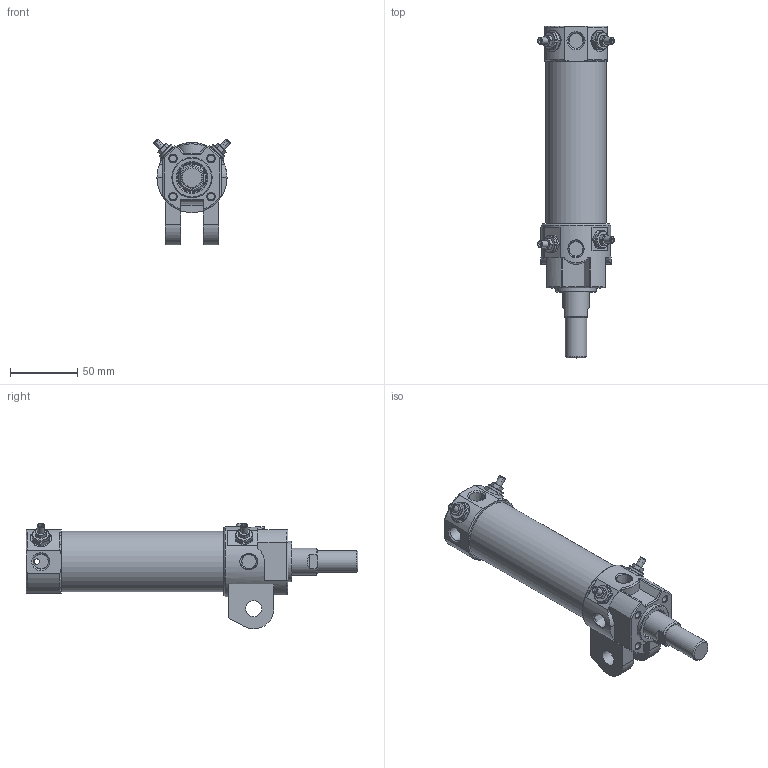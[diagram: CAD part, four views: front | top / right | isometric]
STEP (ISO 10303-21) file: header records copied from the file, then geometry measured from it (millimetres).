
FILE_DESCRIPTION((''),'2;1');
FILE_NAME('I:\3D電子目錄\氣缸\DCK\DCK\DCK-1A-40x75.stp','2008-02-25T15:47:27',('Administrator'),(''),'Autodesk Inventor 11','Autodesk Inventor 11','');
FILE_SCHEMA(('AUTOMOTIVE_DESIGN { 1 0 10303 214 1 1 1 1 }'));
Length unit declared in the file: millimetre
Products named in the file (1): DCK-1A-40x100
Bounding box: 57.13 x 246.5 x 78.56 mm (x, y, z)
Volume: 197108.4 mm3; surface area: 85804.1 mm2
Topology: 11 solids, 11 shells, 524 faces, 1229 edges, 771 vertices
Faces by surface type: bspline 160, plane 148, cylinder 127, cone 60, torus 27, sphere 2
Full cylindrical faces by diameter (mm): 2 x1, 3 x3, 3.8 x1, 4 x4, 4.6 x2, 5 x6, 5.1 x4, 5.2 x2, 7 x1, 7.25 x1, 8 x2, 8.3 x1, 10 x2, 12 x2, 12.8 x2, 16 x2, 20 x1, 21 x1, 22 x3, 23 x1, 24.7 x1, 26 x1, 28 x1, 29 x1, 30 x1, 33 x1, 40 x1, 42 x2, 45 x1, 52 x1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
Entity records: 25774 total; most frequent: CARTESIAN_POINT 15491, ORIENTED_EDGE 2118, DIRECTION 1854, EDGE_CURVE 1059, AXIS2_PLACEMENT_3D 765, EDGE_LOOP 729, VERTEX_POINT 728, FACE_OUTER_BOUND 522
